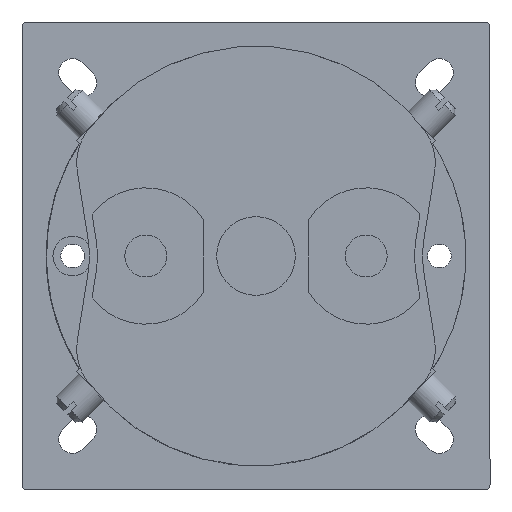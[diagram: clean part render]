
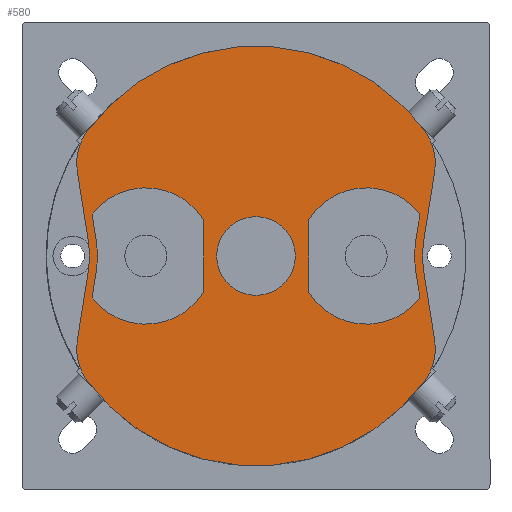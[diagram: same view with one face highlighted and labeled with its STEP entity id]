
A CAD part, front view. The second image highlights one B-rep face of the part: STEP entity #580.
In plain terms, the highlighted planar face has unit normal (0, -1, 0).
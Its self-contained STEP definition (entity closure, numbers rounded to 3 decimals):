
#315=FACE_BOUND('',#1700,.T.);
#316=FACE_BOUND('',#1701,.T.);
#317=FACE_BOUND('',#1702,.T.);
#318=FACE_BOUND('',#1703,.T.);
#580=ADVANCED_FACE('',(#315,#316,#317,#318),#955,.T.);
#955=PLANE('',#7967);
#1700=EDGE_LOOP('',(#2945,#2946,#2947,#2948,#2949,#2950));
#1701=EDGE_LOOP('',(#2951,#2952,#2953,#2954,#2955,#2956));
#1702=EDGE_LOOP('',(#2957,#2958,#2959,#2960,#2961,#2962,#2963,#2964,#2965,
#2966,#2967,#2968));
#1703=EDGE_LOOP('',(#2969));
#2152=CIRCLE('',#7805,40.);
#2162=CIRCLE('',#7815,40.);
#2214=CIRCLE('',#7917,7.5);
#2215=CIRCLE('',#7919,13.);
#2217=CIRCLE('',#7923,21.5);
#2219=CIRCLE('',#7927,13.);
#2221=CIRCLE('',#7933,21.5);
#2223=CIRCLE('',#7937,13.);
#2225=CIRCLE('',#7941,13.);
#2228=CIRCLE('',#7946,10.);
#2230=CIRCLE('',#7950,20.);
#2232=CIRCLE('',#7954,10.);
#2234=CIRCLE('',#7957,10.);
#2236=CIRCLE('',#7961,20.);
#2238=CIRCLE('',#7965,10.);
#2945=ORIENTED_EDGE('',*,*,#5490,.T.);
#2946=ORIENTED_EDGE('',*,*,#5506,.T.);
#2947=ORIENTED_EDGE('',*,*,#5503,.T.);
#2948=ORIENTED_EDGE('',*,*,#5500,.T.);
#2949=ORIENTED_EDGE('',*,*,#5497,.T.);
#2950=ORIENTED_EDGE('',*,*,#5494,.T.);
#2951=ORIENTED_EDGE('',*,*,#5488,.F.);
#2952=ORIENTED_EDGE('',*,*,#5472,.F.);
#2953=ORIENTED_EDGE('',*,*,#5476,.F.);
#2954=ORIENTED_EDGE('',*,*,#5479,.F.);
#2955=ORIENTED_EDGE('',*,*,#5482,.F.);
#2956=ORIENTED_EDGE('',*,*,#5485,.F.);
#2957=ORIENTED_EDGE('',*,*,#5535,.T.);
#2958=ORIENTED_EDGE('',*,*,#5533,.T.);
#2959=ORIENTED_EDGE('',*,*,#5530,.T.);
#2960=ORIENTED_EDGE('',*,*,#5527,.T.);
#2961=ORIENTED_EDGE('',*,*,#5524,.T.);
#2962=ORIENTED_EDGE('',*,*,#5349,.T.);
#2963=ORIENTED_EDGE('',*,*,#5521,.T.);
#2964=ORIENTED_EDGE('',*,*,#5519,.T.);
#2965=ORIENTED_EDGE('',*,*,#5516,.T.);
#2966=ORIENTED_EDGE('',*,*,#5513,.T.);
#2967=ORIENTED_EDGE('',*,*,#5510,.T.);
#2968=ORIENTED_EDGE('',*,*,#5331,.T.);
#2969=ORIENTED_EDGE('',*,*,#5471,.F.);
#4580=VERTEX_POINT('',#10940);
#4581=VERTEX_POINT('',#10942);
#4596=VERTEX_POINT('',#10974);
#4597=VERTEX_POINT('',#10976);
#4678=VERTEX_POINT('',#11229);
#4679=VERTEX_POINT('',#11232);
#4680=VERTEX_POINT('',#11233);
#4683=VERTEX_POINT('',#11241);
#4685=VERTEX_POINT('',#11247);
#4687=VERTEX_POINT('',#11253);
#4689=VERTEX_POINT('',#11259);
#4691=VERTEX_POINT('',#11269);
#4692=VERTEX_POINT('',#11270);
#4695=VERTEX_POINT('',#11278);
#4697=VERTEX_POINT('',#11284);
#4699=VERTEX_POINT('',#11290);
#4701=VERTEX_POINT('',#11296);
#4703=VERTEX_POINT('',#11306);
#4705=VERTEX_POINT('',#11312);
#4707=VERTEX_POINT('',#11318);
#4709=VERTEX_POINT('',#11324);
#4711=VERTEX_POINT('',#11333);
#4713=VERTEX_POINT('',#11339);
#4715=VERTEX_POINT('',#11345);
#4717=VERTEX_POINT('',#11351);
#5331=EDGE_CURVE('',#4581,#4580,#2152,.T.);
#5349=EDGE_CURVE('',#4597,#4596,#2162,.T.);
#5471=EDGE_CURVE('',#4678,#4678,#2214,.T.);
#5472=EDGE_CURVE('',#4679,#4680,#2215,.T.);
#5476=EDGE_CURVE('',#4683,#4679,#6394,.T.);
#5479=EDGE_CURVE('',#4685,#4683,#2217,.T.);
#5482=EDGE_CURVE('',#4687,#4685,#6398,.T.);
#5485=EDGE_CURVE('',#4689,#4687,#2219,.T.);
#5488=EDGE_CURVE('',#4680,#4689,#6402,.T.);
#5490=EDGE_CURVE('',#4691,#4692,#6404,.T.);
#5494=EDGE_CURVE('',#4695,#4691,#2221,.T.);
#5497=EDGE_CURVE('',#4697,#4695,#6409,.T.);
#5500=EDGE_CURVE('',#4699,#4697,#2223,.T.);
#5503=EDGE_CURVE('',#4701,#4699,#6413,.T.);
#5506=EDGE_CURVE('',#4692,#4701,#2225,.T.);
#5510=EDGE_CURVE('',#4703,#4581,#2228,.T.);
#5513=EDGE_CURVE('',#4705,#4703,#6419,.T.);
#5516=EDGE_CURVE('',#4707,#4705,#2230,.T.);
#5519=EDGE_CURVE('',#4709,#4707,#6423,.T.);
#5521=EDGE_CURVE('',#4596,#4709,#2232,.T.);
#5524=EDGE_CURVE('',#4711,#4597,#2234,.T.);
#5527=EDGE_CURVE('',#4713,#4711,#6427,.T.);
#5530=EDGE_CURVE('',#4715,#4713,#2236,.T.);
#5533=EDGE_CURVE('',#4717,#4715,#6431,.T.);
#5535=EDGE_CURVE('',#4580,#4717,#2238,.T.);
#6394=LINE('',#11240,#7117);
#6398=LINE('',#11252,#7121);
#6402=LINE('',#11264,#7125);
#6404=LINE('',#11268,#7127);
#6409=LINE('',#11283,#7132);
#6413=LINE('',#11295,#7136);
#6419=LINE('',#11315,#7142);
#6423=LINE('',#11327,#7146);
#6427=LINE('',#11342,#7150);
#6431=LINE('',#11354,#7154);
#7117=VECTOR('',#9009,1.);
#7121=VECTOR('',#9021,1.);
#7125=VECTOR('',#9033,1.);
#7127=VECTOR('',#9039,1.);
#7132=VECTOR('',#9052,1.);
#7136=VECTOR('',#9064,1.);
#7142=VECTOR('',#9086,1.);
#7146=VECTOR('',#9098,1.);
#7150=VECTOR('',#9116,1.);
#7154=VECTOR('',#9128,1.);
#7805=AXIS2_PLACEMENT_3D('',#10941,#8695,#8696);
#7815=AXIS2_PLACEMENT_3D('',#10975,#8723,#8724);
#7917=AXIS2_PLACEMENT_3D('',#11228,#8997,#8998);
#7919=AXIS2_PLACEMENT_3D('',#11231,#9001,#9002);
#7923=AXIS2_PLACEMENT_3D('',#11246,#9014,#9015);
#7927=AXIS2_PLACEMENT_3D('',#11258,#9026,#9027);
#7933=AXIS2_PLACEMENT_3D('',#11277,#9045,#9046);
#7937=AXIS2_PLACEMENT_3D('',#11289,#9057,#9058);
#7941=AXIS2_PLACEMENT_3D('',#11301,#9069,#9070);
#7946=AXIS2_PLACEMENT_3D('',#11309,#9080,#9081);
#7950=AXIS2_PLACEMENT_3D('',#11321,#9092,#9093);
#7954=AXIS2_PLACEMENT_3D('',#11330,#9103,#9104);
#7957=AXIS2_PLACEMENT_3D('',#11336,#9110,#9111);
#7961=AXIS2_PLACEMENT_3D('',#11348,#9122,#9123);
#7965=AXIS2_PLACEMENT_3D('',#11357,#9133,#9134);
#7967=AXIS2_PLACEMENT_3D('',#11359,#9137,#9138);
#8695=DIRECTION('',(0.,-1.,0.));
#8696=DIRECTION('',(0.,0.,-1.));
#8723=DIRECTION('',(0.,-1.,0.));
#8724=DIRECTION('',(0.,0.,-1.));
#8997=DIRECTION('',(0.,-1.,0.));
#8998=DIRECTION('',(0.,0.,-1.));
#9001=DIRECTION('',(0.,-1.,0.));
#9002=DIRECTION('',(1.,0.,0.));
#9009=DIRECTION('',(0.156,0.,0.988));
#9014=DIRECTION('',(0.,1.,0.));
#9015=DIRECTION('',(1.,0.,0.));
#9021=DIRECTION('',(-0.156,0.,0.988));
#9026=DIRECTION('',(0.,-1.,0.));
#9027=DIRECTION('',(1.,0.,0.));
#9033=DIRECTION('',(0.,0.,-1.));
#9039=DIRECTION('',(-0.156,0.,0.988));
#9045=DIRECTION('',(0.,-1.,0.));
#9046=DIRECTION('',(1.,0.,0.));
#9052=DIRECTION('',(0.156,0.,0.988));
#9057=DIRECTION('',(0.,1.,0.));
#9058=DIRECTION('',(1.,0.,0.));
#9064=DIRECTION('',(0.,0.,-1.));
#9069=DIRECTION('',(0.,1.,0.));
#9070=DIRECTION('',(1.,0.,0.));
#9080=DIRECTION('',(0.,-1.,0.));
#9081=DIRECTION('',(0.,0.,-1.));
#9086=DIRECTION('',(0.156,0.,0.988));
#9092=DIRECTION('',(0.,1.,0.));
#9093=DIRECTION('',(0.,0.,-1.));
#9098=DIRECTION('',(-0.156,0.,0.988));
#9103=DIRECTION('',(0.,-1.,0.));
#9104=DIRECTION('',(0.,0.,-1.));
#9110=DIRECTION('',(0.,-1.,0.));
#9111=DIRECTION('',(0.,0.,-1.));
#9116=DIRECTION('',(-0.156,0.,-0.988));
#9122=DIRECTION('',(0.,1.,0.));
#9123=DIRECTION('',(0.,0.,-1.));
#9128=DIRECTION('',(0.156,0.,-0.988));
#9133=DIRECTION('',(0.,-1.,0.));
#9134=DIRECTION('',(0.,0.,-1.));
#9137=DIRECTION('',(0.,-1.,0.));
#9138=DIRECTION('',(0.,0.,-1.));
#10940=CARTESIAN_POINT('',(-32.249,-80.5,23.665));
#10941=CARTESIAN_POINT('',(0.,-80.5,0.));
#10942=CARTESIAN_POINT('',(32.249,-80.5,23.665));
#10974=CARTESIAN_POINT('',(32.249,-80.5,-23.665));
#10975=CARTESIAN_POINT('',(0.,-80.5,0.));
#10976=CARTESIAN_POINT('',(-32.249,-80.5,-23.665));
#11228=CARTESIAN_POINT('',(0.,-80.5,0.));
#11229=CARTESIAN_POINT('',(0.,-80.5,-7.5));
#11231=CARTESIAN_POINT('',(21.031,-80.5,0.));
#11232=CARTESIAN_POINT('',(31.253,-80.5,8.032));
#11233=CARTESIAN_POINT('',(10.031,-80.5,6.928));
#11240=CARTESIAN_POINT('',(30.514,-80.5,3.363));
#11241=CARTESIAN_POINT('',(30.514,-80.5,3.363));
#11246=CARTESIAN_POINT('',(51.749,-80.5,0.));
#11247=CARTESIAN_POINT('',(30.514,-80.5,-3.363));
#11252=CARTESIAN_POINT('',(31.253,-80.5,-8.032));
#11253=CARTESIAN_POINT('',(31.253,-80.5,-8.032));
#11258=CARTESIAN_POINT('',(21.031,-80.5,0.));
#11259=CARTESIAN_POINT('',(10.031,-80.5,-6.928));
#11264=CARTESIAN_POINT('',(10.031,-80.5,6.928));
#11268=CARTESIAN_POINT('',(-30.514,-80.5,3.363));
#11269=CARTESIAN_POINT('',(-30.514,-80.5,3.363));
#11270=CARTESIAN_POINT('',(-31.248,-80.5,7.998));
#11277=CARTESIAN_POINT('',(-51.749,-80.5,0.));
#11278=CARTESIAN_POINT('',(-30.514,-80.5,-3.363));
#11283=CARTESIAN_POINT('',(-31.248,-80.5,-7.998));
#11284=CARTESIAN_POINT('',(-31.248,-80.5,-7.998));
#11289=CARTESIAN_POINT('',(-21.,-80.5,0.));
#11290=CARTESIAN_POINT('',(-10.,-80.5,-6.928));
#11295=CARTESIAN_POINT('',(-10.,-80.5,6.928));
#11296=CARTESIAN_POINT('',(-10.,-80.5,6.928));
#11301=CARTESIAN_POINT('',(-21.,-80.5,0.));
#11306=CARTESIAN_POINT('',(34.063,-80.5,16.184));
#11309=CARTESIAN_POINT('',(24.186,-80.5,17.749));
#11312=CARTESIAN_POINT('',(31.996,-80.5,3.129));
#11315=CARTESIAN_POINT('',(31.996,-80.5,3.129));
#11318=CARTESIAN_POINT('',(31.996,-80.5,-3.129));
#11321=CARTESIAN_POINT('',(51.749,-80.5,0.));
#11324=CARTESIAN_POINT('',(34.063,-80.5,-16.184));
#11327=CARTESIAN_POINT('',(34.063,-80.5,-16.184));
#11330=CARTESIAN_POINT('',(24.186,-80.5,-17.749));
#11333=CARTESIAN_POINT('',(-34.063,-80.5,-16.184));
#11336=CARTESIAN_POINT('',(-24.186,-80.5,-17.749));
#11339=CARTESIAN_POINT('',(-31.996,-80.5,-3.129));
#11342=CARTESIAN_POINT('',(-31.996,-80.5,-3.129));
#11345=CARTESIAN_POINT('',(-31.996,-80.5,3.129));
#11348=CARTESIAN_POINT('',(-51.749,-80.5,0.));
#11351=CARTESIAN_POINT('',(-34.063,-80.5,16.184));
#11354=CARTESIAN_POINT('',(-34.063,-80.5,16.184));
#11357=CARTESIAN_POINT('',(-24.186,-80.5,17.749));
#11359=CARTESIAN_POINT('',(-24.186,-80.5,17.749));
